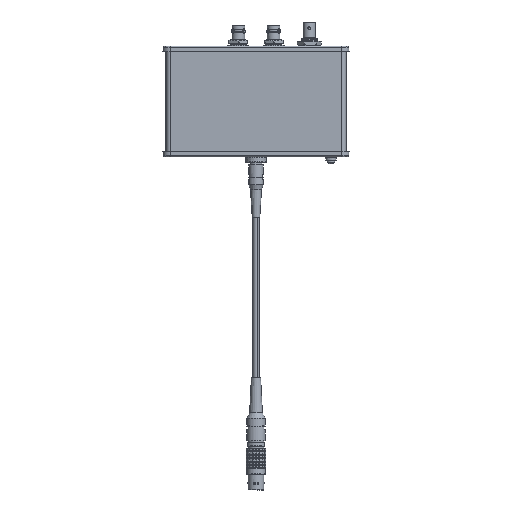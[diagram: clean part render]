
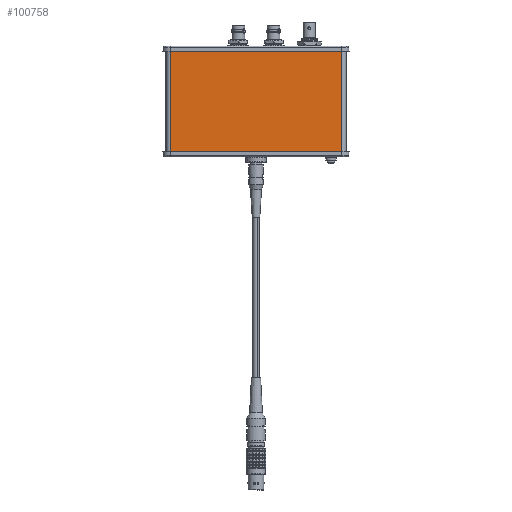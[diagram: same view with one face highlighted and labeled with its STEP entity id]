
A CAD part, front view. The second image highlights one B-rep face of the part: STEP entity #100758.
In plain terms, the highlighted planar face has unit normal (0, -1, 0).
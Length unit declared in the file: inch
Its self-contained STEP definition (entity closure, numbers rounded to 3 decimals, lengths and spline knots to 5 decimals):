
#1068 = EDGE_CURVE ( 'NONE', #100175, #89574, #15698, .T. ) ;
#1195 = ORIENTED_EDGE ( 'NONE', *, *, #84352, .T. ) ;
#3177 = CARTESIAN_POINT ( 'NONE',  ( 0., -0.68898, 1.5748 ) ) ;
#4708 = VERTEX_POINT ( 'NONE', #56545 ) ;
#15698 = LINE ( 'NONE', #93747, #74595 ) ;
#28301 = ORIENTED_EDGE ( 'NONE', *, *, #127647, .T. ) ;
#28433 = DIRECTION ( 'NONE',  ( 1., 0., 0. ) ) ;
#36773 = ORIENTED_EDGE ( 'NONE', *, *, #1068, .T. ) ;
#40964 = FACE_OUTER_BOUND ( 'NONE', #152185, .T. ) ;
#43718 = VECTOR ( 'NONE', #131971, 39.37008 ) ;
#48840 = VECTOR ( 'NONE', #124418, 39.37008 ) ;
#54333 = VECTOR ( 'NONE', #28433, 39.37008 ) ;
#54385 = DIRECTION ( 'NONE',  ( 0., 0., 1. ) ) ;
#56545 = CARTESIAN_POINT ( 'NONE',  ( -2.5765, -0.68898, 1.5748 ) ) ;
#69593 = LINE ( 'NONE', #72102, #48840 ) ;
#72102 = CARTESIAN_POINT ( 'NONE',  ( 0., -0.68898, 1.5748 ) ) ;
#74595 = VECTOR ( 'NONE', #54385, 39.37008 ) ;
#83433 = ORIENTED_EDGE ( 'NONE', *, *, #94405, .F. ) ;
#84352 = EDGE_CURVE ( 'NONE', #4708, #108266, #107938, .T. ) ;
#89574 = VERTEX_POINT ( 'NONE', #156561 ) ;
#92732 = CARTESIAN_POINT ( 'NONE',  ( 0., -0.68898, -1.5748 ) ) ;
#93747 = CARTESIAN_POINT ( 'NONE',  ( 2.5765, -0.68898, 1.5748 ) ) ;
#94405 = EDGE_CURVE ( 'NONE', #4708, #89574, #69593, .T. ) ;
#100175 = VERTEX_POINT ( 'NONE', #103530 ) ;
#100758 = ADVANCED_FACE ( 'NONE', ( #40964 ), #106952, .F. ) ;
#103530 = CARTESIAN_POINT ( 'NONE',  ( 2.5765, -0.68898, -1.5748 ) ) ;
#106952 = PLANE ( 'NONE',  #107009 ) ;
#107009 = AXIS2_PLACEMENT_3D ( 'NONE', #3177, #123179, #111145 ) ;
#107938 = LINE ( 'NONE', #144945, #43718 ) ;
#107941 = CARTESIAN_POINT ( 'NONE',  ( -2.5765, -0.68898, -1.5748 ) ) ;
#108266 = VERTEX_POINT ( 'NONE', #107941 ) ;
#111145 = DIRECTION ( 'NONE',  ( 0., 0., 1. ) ) ;
#119280 = LINE ( 'NONE', #92732, #54333 ) ;
#123179 = DIRECTION ( 'NONE',  ( 0., 1., 0. ) ) ;
#124418 = DIRECTION ( 'NONE',  ( 1., 0., 0. ) ) ;
#127647 = EDGE_CURVE ( 'NONE', #108266, #100175, #119280, .T. ) ;
#131971 = DIRECTION ( 'NONE',  ( 0., 0., -1. ) ) ;
#144945 = CARTESIAN_POINT ( 'NONE',  ( -2.5765, -0.68898, -1.5748 ) ) ;
#152185 = EDGE_LOOP ( 'NONE', ( #83433, #1195, #28301, #36773 ) ) ;
#156561 = CARTESIAN_POINT ( 'NONE',  ( 2.5765, -0.68898, 1.5748 ) ) ;
